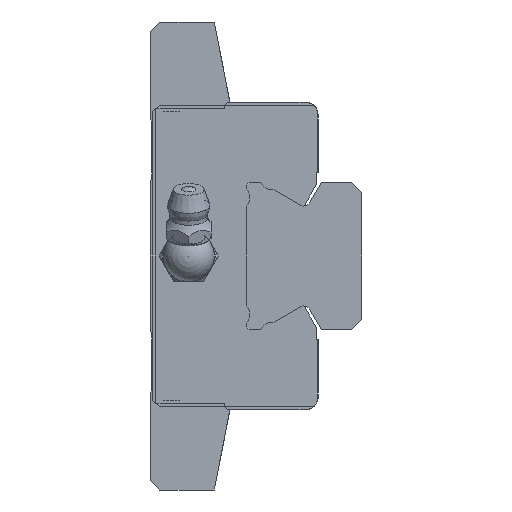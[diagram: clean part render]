
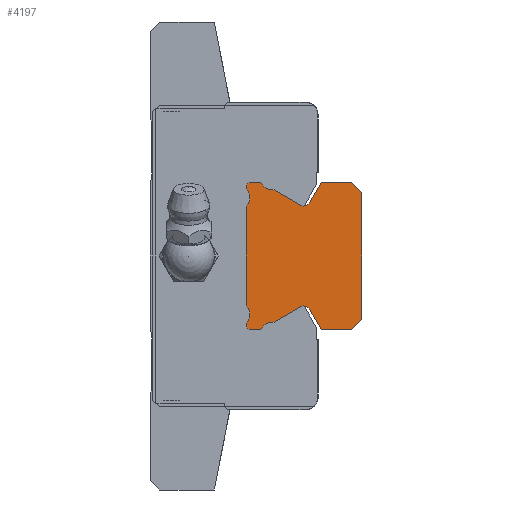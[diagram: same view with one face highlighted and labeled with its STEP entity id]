
A CAD part, left-side view. The second image highlights one B-rep face of the part: STEP entity #4197.
In plain terms, the highlighted planar face has unit normal (-1, 0, 0).
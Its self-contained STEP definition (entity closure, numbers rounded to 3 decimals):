
#354=LINE('',#6885,#722);
#359=LINE('',#6900,#727);
#363=LINE('',#6912,#731);
#366=LINE('',#6918,#734);
#369=LINE('',#6924,#737);
#372=LINE('',#6964,#740);
#375=LINE('',#6970,#743);
#378=LINE('',#6976,#746);
#381=LINE('',#6982,#749);
#385=LINE('',#6994,#753);
#389=LINE('',#7006,#757);
#392=LINE('',#7012,#760);
#395=LINE('',#7018,#763);
#399=LINE('',#7064,#767);
#403=LINE('',#7076,#771);
#406=LINE('',#7082,#774);
#722=VECTOR('',#5516,1000.);
#727=VECTOR('',#5529,1000.);
#731=VECTOR('',#5541,1000.);
#734=VECTOR('',#5546,1000.);
#737=VECTOR('',#5551,1000.);
#740=VECTOR('',#5590,1000.);
#743=VECTOR('',#5595,1000.);
#746=VECTOR('',#5600,1000.);
#749=VECTOR('',#5605,1000.);
#753=VECTOR('',#5617,1000.);
#757=VECTOR('',#5629,1000.);
#760=VECTOR('',#5634,1000.);
#763=VECTOR('',#5639,1000.);
#767=VECTOR('',#5685,1000.);
#771=VECTOR('',#5697,1000.);
#774=VECTOR('',#5702,1000.);
#927=PLANE('',#4607);
#1086=CIRCLE('',#4540,2.06);
#1088=CIRCLE('',#4544,1.);
#1107=CIRCLE('',#4571,1.);
#1109=CIRCLE('',#4575,2.06);
#1111=CIRCLE('',#4581,2.06);
#1130=CIRCLE('',#4602,2.06);
#2150=ORIENTED_EDGE('',*,*,#2694,.F.);
#2151=ORIENTED_EDGE('',*,*,#2792,.F.);
#2152=ORIENTED_EDGE('',*,*,#2789,.F.);
#2153=ORIENTED_EDGE('',*,*,#2786,.T.);
#2154=ORIENTED_EDGE('',*,*,#2783,.F.);
#2155=ORIENTED_EDGE('',*,*,#2763,.T.);
#2156=ORIENTED_EDGE('',*,*,#2760,.F.);
#2157=ORIENTED_EDGE('',*,*,#2757,.F.);
#2158=ORIENTED_EDGE('',*,*,#2754,.F.);
#2159=ORIENTED_EDGE('',*,*,#2751,.T.);
#2160=ORIENTED_EDGE('',*,*,#2748,.F.);
#2161=ORIENTED_EDGE('',*,*,#2745,.T.);
#2162=ORIENTED_EDGE('',*,*,#2742,.F.);
#2163=ORIENTED_EDGE('',*,*,#2739,.F.);
#2164=ORIENTED_EDGE('',*,*,#2736,.F.);
#2165=ORIENTED_EDGE('',*,*,#2733,.F.);
#2166=ORIENTED_EDGE('',*,*,#2713,.F.);
#2167=ORIENTED_EDGE('',*,*,#2710,.F.);
#2168=ORIENTED_EDGE('',*,*,#2707,.F.);
#2169=ORIENTED_EDGE('',*,*,#2704,.T.);
#2170=ORIENTED_EDGE('',*,*,#2701,.F.);
#2171=ORIENTED_EDGE('',*,*,#2698,.T.);
#2694=EDGE_CURVE('',#3105,#3106,#354,.T.);
#2698=EDGE_CURVE('',#3109,#3106,#1086,.T.);
#2701=EDGE_CURVE('',#3109,#3111,#359,.T.);
#2704=EDGE_CURVE('',#3113,#3111,#1088,.T.);
#2707=EDGE_CURVE('',#3113,#3115,#363,.T.);
#2710=EDGE_CURVE('',#3115,#3117,#366,.T.);
#2713=EDGE_CURVE('',#3117,#3119,#369,.T.);
#2733=EDGE_CURVE('',#3119,#3138,#372,.T.);
#2736=EDGE_CURVE('',#3138,#3140,#375,.T.);
#2739=EDGE_CURVE('',#3140,#3142,#378,.T.);
#2742=EDGE_CURVE('',#3142,#3144,#381,.T.);
#2745=EDGE_CURVE('',#3146,#3144,#1107,.T.);
#2748=EDGE_CURVE('',#3146,#3148,#385,.T.);
#2751=EDGE_CURVE('',#3150,#3148,#1109,.T.);
#2754=EDGE_CURVE('',#3150,#3152,#389,.T.);
#2757=EDGE_CURVE('',#3152,#3154,#392,.T.);
#2760=EDGE_CURVE('',#3154,#3156,#395,.T.);
#2763=EDGE_CURVE('',#3158,#3156,#1111,.T.);
#2783=EDGE_CURVE('',#3158,#3177,#399,.T.);
#2786=EDGE_CURVE('',#3179,#3177,#1130,.T.);
#2789=EDGE_CURVE('',#3179,#3181,#403,.T.);
#2792=EDGE_CURVE('',#3181,#3105,#406,.T.);
#3105=VERTEX_POINT('',#6886);
#3106=VERTEX_POINT('',#6887);
#3109=VERTEX_POINT('',#6895);
#3111=VERTEX_POINT('',#6901);
#3113=VERTEX_POINT('',#6907);
#3115=VERTEX_POINT('',#6913);
#3117=VERTEX_POINT('',#6919);
#3119=VERTEX_POINT('',#6925);
#3138=VERTEX_POINT('',#6965);
#3140=VERTEX_POINT('',#6971);
#3142=VERTEX_POINT('',#6977);
#3144=VERTEX_POINT('',#6983);
#3146=VERTEX_POINT('',#6989);
#3148=VERTEX_POINT('',#6995);
#3150=VERTEX_POINT('',#7001);
#3152=VERTEX_POINT('',#7007);
#3154=VERTEX_POINT('',#7013);
#3156=VERTEX_POINT('',#7019);
#3158=VERTEX_POINT('',#7025);
#3177=VERTEX_POINT('',#7065);
#3179=VERTEX_POINT('',#7071);
#3181=VERTEX_POINT('',#7077);
#3513=EDGE_LOOP('',(#2150,#2151,#2152,#2153,#2154,#2155,#2156,#2157,#2158,
#2159,#2160,#2161,#2162,#2163,#2164,#2165,#2166,#2167,#2168,#2169,#2170,
#2171));
#3882=FACE_BOUND('',#3513,.T.);
#4197=ADVANCED_FACE('',(#3882),#927,.F.);
#4540=AXIS2_PLACEMENT_3D('',#6894,#5522,#5523);
#4544=AXIS2_PLACEMENT_3D('',#6906,#5534,#5535);
#4571=AXIS2_PLACEMENT_3D('',#6988,#5610,#5611);
#4575=AXIS2_PLACEMENT_3D('',#7000,#5622,#5623);
#4581=AXIS2_PLACEMENT_3D('',#7024,#5644,#5645);
#4602=AXIS2_PLACEMENT_3D('',#7070,#5690,#5691);
#4607=AXIS2_PLACEMENT_3D('',#7085,#5706,#5707);
#5516=DIRECTION('',(0.,-1.,0.));
#5522=DIRECTION('',(1.,0.,0.));
#5523=DIRECTION('',(0.,0.,-1.));
#5529=DIRECTION('',(0.,-0.866,-0.499));
#5534=DIRECTION('',(1.,0.,0.));
#5535=DIRECTION('',(0.,0.,-1.));
#5541=DIRECTION('',(0.,-0.5,0.866));
#5546=DIRECTION('',(0.,-1.,0.));
#5551=DIRECTION('',(0.,-0.707,-0.707));
#5590=DIRECTION('',(0.,0.,-1.));
#5595=DIRECTION('',(0.,0.707,-0.707));
#5600=DIRECTION('',(0.,1.,0.));
#5605=DIRECTION('',(0.,0.5,0.866));
#5610=DIRECTION('',(1.,0.,0.));
#5611=DIRECTION('',(0.,0.,-1.));
#5617=DIRECTION('',(0.,0.866,-0.499));
#5622=DIRECTION('',(1.,0.,0.));
#5623=DIRECTION('',(0.,0.,-1.));
#5629=DIRECTION('',(0.,1.,0.));
#5634=DIRECTION('',(0.,0.707,0.707));
#5639=DIRECTION('',(0.,0.,1.));
#5644=DIRECTION('',(1.,0.,0.));
#5645=DIRECTION('',(0.,0.,-1.));
#5685=DIRECTION('',(0.,0.,1.));
#5690=DIRECTION('',(1.,0.,0.));
#5691=DIRECTION('',(0.,0.,-1.));
#5697=DIRECTION('',(0.,0.,1.));
#5702=DIRECTION('',(0.,-0.707,0.707));
#5706=DIRECTION('',(1.,0.,0.));
#5707=DIRECTION('',(0.,0.,-1.));
#6885=CARTESIAN_POINT('',(-20.,17.57,11.5));
#6886=CARTESIAN_POINT('',(-20.,17.57,11.5));
#6887=CARTESIAN_POINT('',(-20.,15.737,11.5));
#6894=CARTESIAN_POINT('',(-20.,13.868,12.366));
#6895=CARTESIAN_POINT('',(-20.,13.68,10.315));
#6900=CARTESIAN_POINT('',(-20.,13.68,10.315));
#6901=CARTESIAN_POINT('',(-20.,9.514,7.915));
#6906=CARTESIAN_POINT('',(-20.,9.015,8.781));
#6907=CARTESIAN_POINT('',(-20.,8.149,8.281));
#6912=CARTESIAN_POINT('',(-20.,8.149,8.281));
#6913=CARTESIAN_POINT('',(-20.,6.29,11.5));
#6918=CARTESIAN_POINT('',(-20.,6.29,11.5));
#6919=CARTESIAN_POINT('',(-20.,1.6,11.5));
#6924=CARTESIAN_POINT('',(-20.,1.6,11.5));
#6925=CARTESIAN_POINT('',(-20.,0.,9.9));
#6964=CARTESIAN_POINT('',(-20.,0.,9.9));
#6965=CARTESIAN_POINT('',(-20.,0.,-9.9));
#6970=CARTESIAN_POINT('',(-20.,0.,-9.9));
#6971=CARTESIAN_POINT('',(-20.,1.6,-11.5));
#6976=CARTESIAN_POINT('',(-20.,1.6,-11.5));
#6977=CARTESIAN_POINT('',(-20.,6.29,-11.5));
#6982=CARTESIAN_POINT('',(-20.,6.29,-11.5));
#6983=CARTESIAN_POINT('',(-20.,8.149,-8.281));
#6988=CARTESIAN_POINT('',(-20.,9.015,-8.781));
#6989=CARTESIAN_POINT('',(-20.,9.514,-7.915));
#6994=CARTESIAN_POINT('',(-20.,9.514,-7.915));
#6995=CARTESIAN_POINT('',(-20.,13.68,-10.315));
#7000=CARTESIAN_POINT('',(-20.,13.868,-12.366));
#7001=CARTESIAN_POINT('',(-20.,15.737,-11.5));
#7006=CARTESIAN_POINT('',(-20.,15.737,-11.5));
#7007=CARTESIAN_POINT('',(-20.,17.57,-11.5));
#7012=CARTESIAN_POINT('',(-20.,17.57,-11.5));
#7013=CARTESIAN_POINT('',(-20.,18.,-11.07));
#7018=CARTESIAN_POINT('',(-20.,18.,-11.07));
#7019=CARTESIAN_POINT('',(-20.,18.,-10.493));
#7024=CARTESIAN_POINT('',(-20.,19.524,-9.107));
#7025=CARTESIAN_POINT('',(-20.,18.,-7.721));
#7064=CARTESIAN_POINT('',(-20.,18.,-7.721));
#7065=CARTESIAN_POINT('',(-20.,18.,7.721));
#7070=CARTESIAN_POINT('',(-20.,19.524,9.107));
#7071=CARTESIAN_POINT('',(-20.,18.,10.493));
#7076=CARTESIAN_POINT('',(-20.,18.,10.493));
#7077=CARTESIAN_POINT('',(-20.,18.,11.07));
#7082=CARTESIAN_POINT('',(-20.,18.,11.07));
#7085=CARTESIAN_POINT('',(-20.,13.868,12.366));
